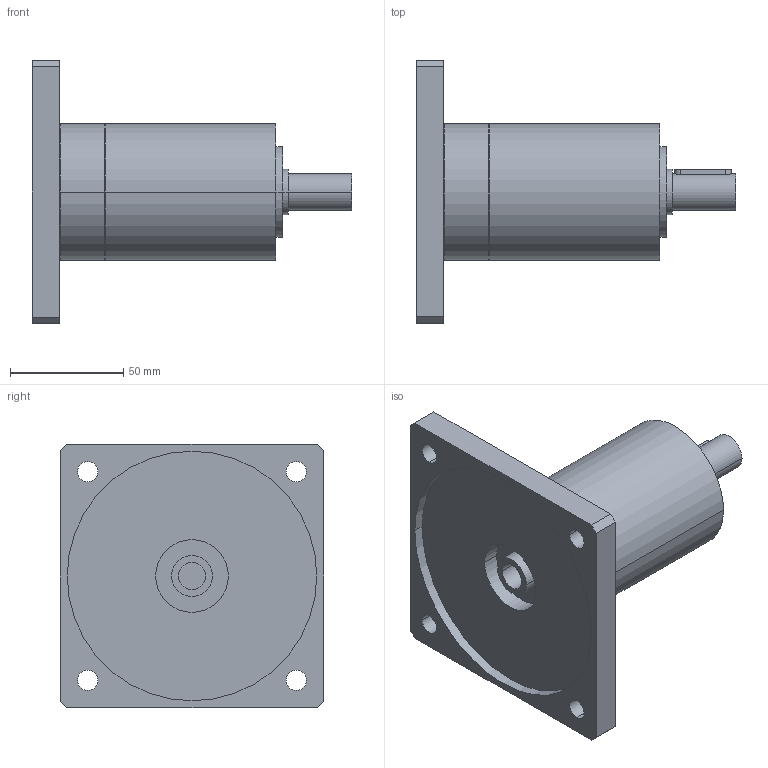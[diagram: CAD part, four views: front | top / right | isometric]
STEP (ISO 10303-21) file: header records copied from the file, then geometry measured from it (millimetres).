
FILE_DESCRIPTION(('CoCreate Modeling STEP Export'),'2;1');
FILE_NAME('GPR75_ig-9-12-16-20-24-30-36_16_B14_12_P09.stp','2014-08-25T16:02:37',(''),(''),'CoCreate Modeling STEP processor for AP214 (Solid Model)','CoCreate Modeling 16.00C 25-Feb-2009 (C) Parametric Technology GmbH','');
FILE_SCHEMA(('AUTOMOTIVE_DESIGN { 1 0 10303 214 1 1 1 1 }'));
Length unit declared in the file: millimetre
Products named in the file (2): GPR75_ig-9-12-16-20-24-30-36_16_B14_12_P09
Assembly tree (1 placements, depth 2):
  GPR75_ig-9-12-16-20-24-30-36_16_B14_12_P09
    GPR75_ig-9-12-16-20-24-30-36_16_B14_12_P09
Bounding box: 140.9 x 116 x 116 mm (x, y, z)
Volume: 387042.4 mm3; surface area: 57977.7 mm2
Topology: 1 solids, 1 shells, 70 faces, 188 edges, 132 vertices
Faces by surface type: cylinder 42, plane 22, cone 6
Entity records: 1939 total; most frequent: ORIENTED_EDGE 372, CARTESIAN_POINT 360, DIRECTION 262, EDGE_CURVE 186, VERTEX_POINT 132, AXIS2_PLACEMENT_3D 98, EDGE_LOOP 92, FACE_OUTER_BOUND 70
